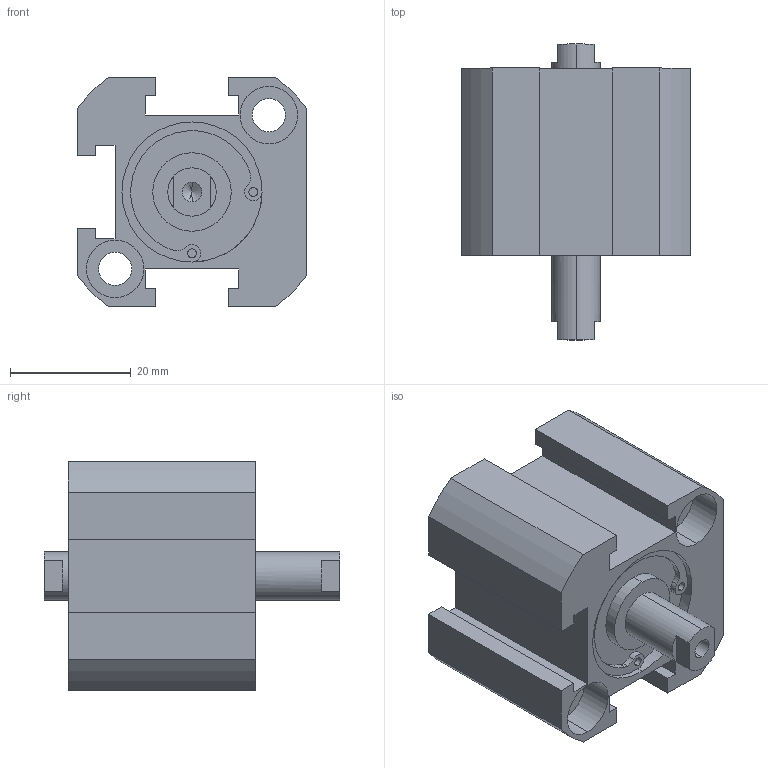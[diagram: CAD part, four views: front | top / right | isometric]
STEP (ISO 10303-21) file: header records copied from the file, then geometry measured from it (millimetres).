
FILE_DESCRIPTION (( 'STEP AP203' ), '1' );
FILE_NAME ('XC#7-20-10.STEP', '2016-05-23T08:22:22', ( '' ), ( '' ), 'SwSTEP 2.0', 'SolidWorks 2014', '' );
FILE_SCHEMA (( 'CONFIG_CONTROL_DESIGN' ));
Length unit declared in the file: millimetre
Products named in the file (1): XC#7-20-10
Bounding box: 38 x 49 x 38 mm (x, y, z)
Volume: 32101.4 mm3; surface area: 11108.8 mm2
Topology: 1 solids, 1 shells, 120 faces, 302 edges, 194 vertices
Faces by surface type: cylinder 58, plane 54, cone 8
Entity records: 3661 total; most frequent: DIRECTION 662, CARTESIAN_POINT 609, ORIENTED_EDGE 588, EDGE_CURVE 294, AXIS2_PLACEMENT_3D 247, VERTEX_POINT 194, VECTOR 168, LINE 168
